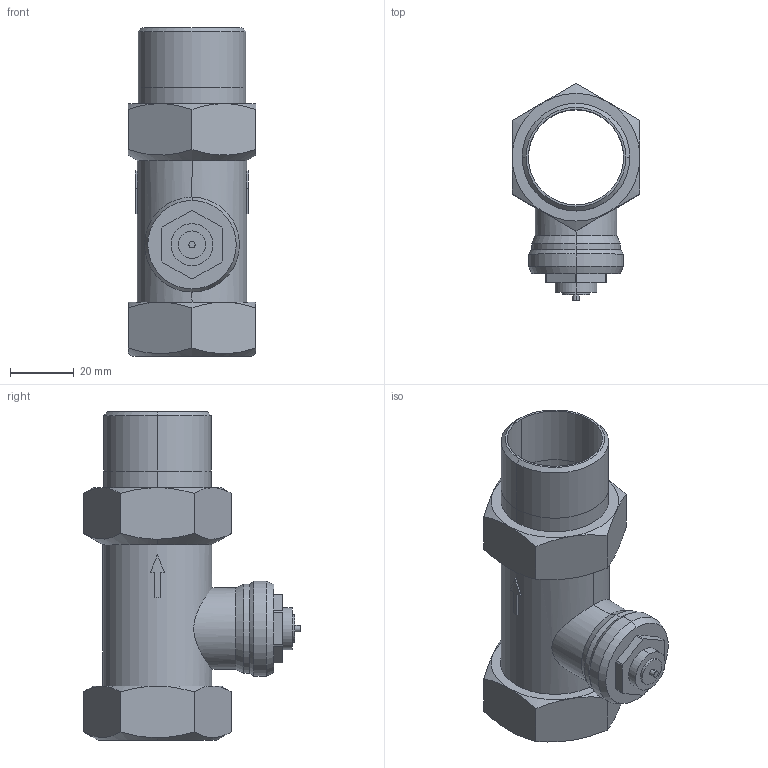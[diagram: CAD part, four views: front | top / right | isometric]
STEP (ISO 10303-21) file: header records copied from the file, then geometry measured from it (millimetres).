
FILE_DESCRIPTION((''),'2;1');
FILE_NAME('000003.stp','2006-09-29T17:13:46',(''),(''),'Mechanical Desktop 2006','Mechanical Desktop 2006',', , ');
FILE_SCHEMA(('AUTOMOTIVE_DESIGN { 1 2 10303 214 0 1 1 1 }'));
Length unit declared in the file: millimetre
Products named in the file (1): Product
Bounding box: 40 x 67.89 x 103 mm (x, y, z)
Volume: 48261.5 mm3; surface area: 27468.6 mm2
Topology: 8 solids, 8 shells, 106 faces, 238 edges, 151 vertices
Faces by surface type: bspline 46, plane 34, cylinder 20, cone 6
Entity records: 3359 total; most frequent: CARTESIAN_POINT 1153, ORIENTED_EDGE 476, DIRECTION 405, EDGE_CURVE 238, VERTEX_POINT 151, AXIS2_PLACEMENT_3D 149, EDGE_LOOP 113, VECTOR 107
